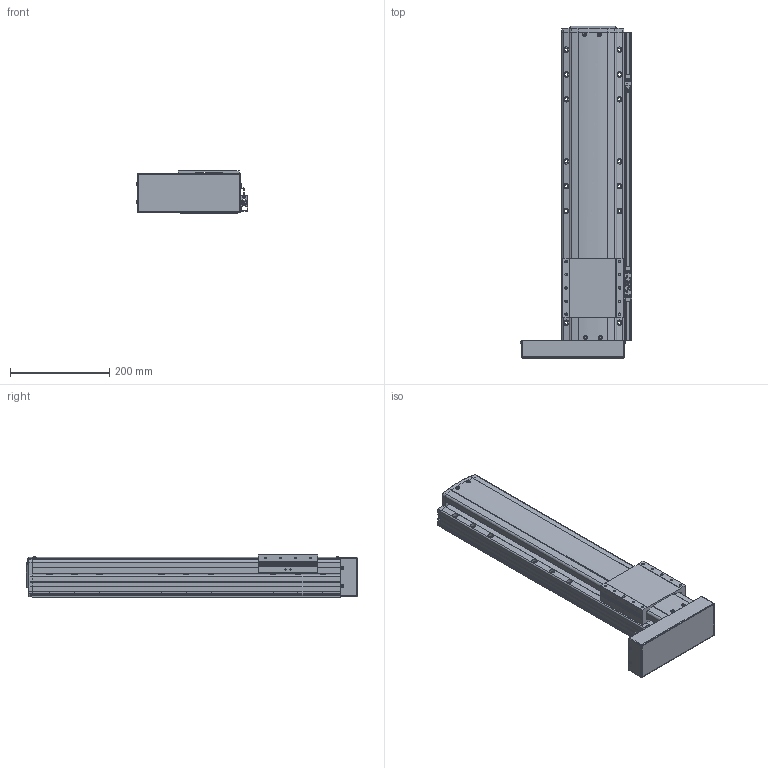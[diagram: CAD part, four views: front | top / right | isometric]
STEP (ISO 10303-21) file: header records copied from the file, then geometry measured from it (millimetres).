
FILE_DESCRIPTION(('STEP AP214'),'1');
FILE_NAME('Z:/Web/3D/PSA125/STP/PSA125-400 (3D)/PSA125ㅁㅁ-400PL+3SR.stp','2014-06-22T23:57:51',(' '),(' '),'Spatial InterOp 3D',' ',' ');
FILE_SCHEMA(('automotive_design'));
Length unit declared in the file: millimetre
Products named in the file (41): 스크루 : Round - M4.0 x 10.0; RRCV-PA120; SLIDE; BASE; FRCV-PA120-1(기준 뿔 제거); RR1500; 스크루 : Round - M4.0 x 6.0; 너트 : Square - M10.0 x 220.7419; BTCV - 60A; 스크루 : Round - M3.0 x 6.0; EE-SX674; SBK-SX674-352; M3.0 x 6.0; SRL-16x17-380L; SGD-PA95; 스크루 : Round - M3.0 x 8.0
Bounding box: 225.06 x 668.6 x 86 mm (x, y, z)
Volume: 6026743.2 mm3; surface area: 599187.1 mm2
Topology: 41 solids, 41 shells, 2439 faces, 6493 edges, 4166 vertices
Faces by surface type: plane 1407, cylinder 676, cone 236, sphere 64, bspline 31, torus 25
Entity records: 97432 total; most frequent: CARTESIAN_POINT 15823, DIRECTION 12973, ORIENTED_EDGE 12726, EDGE_CURVE 6363, AXIS2_PLACEMENT_3D 4329, LINE 4315, VECTOR 4315, VERTEX_POINT 4166
